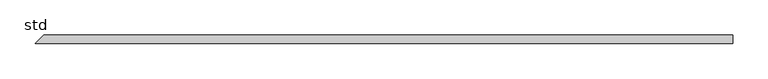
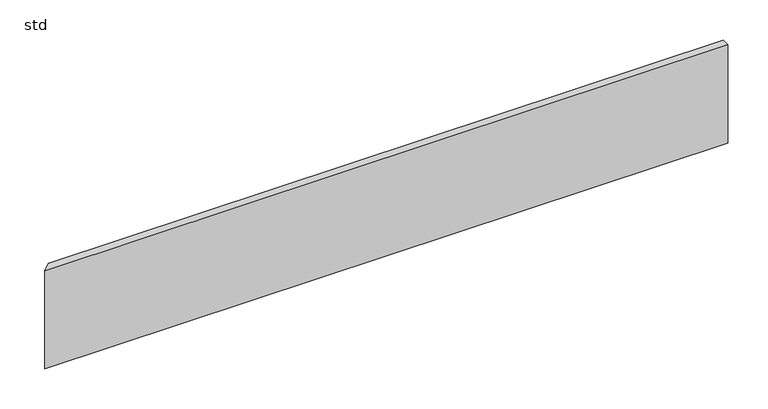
"""IFC4 building model written with IfcOpenShell, lengths in millimetres: proxy geometry, 300_41_ISR_lb_multiplex : std."""

from ifc_helpers import new_model, si_unit, origin, origin_with_axes, place, context, project, spatial, polyline, outline, extrude, source, transform, mapped, element, save


def std_fba14e34(model_context):
    return source(origin(), model_context, "Body", "SweptSolid", [
        extrude(outline(polyline([(485.0, 12.0), (485.0, 0.0), (-500.0, 0.0), (-488.0, 12.0), (485.0, 12.0)])), origin_with_axes(), (0.0, 0.0, 1.0), 150.0),
    ])


if __name__ == "__main__":
    model = new_model("IFC4")
    model_context = context("Model", 3, world=origin())
    ifc_project = project(units=[si_unit("LENGTHUNIT", "METRE", prefix="MILLI")], contexts=[model_context])
    site = spatial("IfcSite", under=ifc_project)
    building = spatial("IfcBuilding", under=site)
    placement = place(None, origin())
    std_shape = std_fba14e34(model_context)
    element("IfcBuildingElementProxy", 1, Name="300_41_ISR_lb_multiplex : std", ObjectType="300_41_ISR_lb_multiplex : std", at=placement, inside=building, context=model_context, shape_type="MappedRepresentation", body=[
        mapped(std_shape, transform((0.0, 0.0, 0.0), x_axis=(1.0, 0.0, 0.0), y_axis=(0.0, 1.0, 0.0), z_axis=(0.0, 0.0, 1.0))),
    ])
    save(model, "model.ifc")
